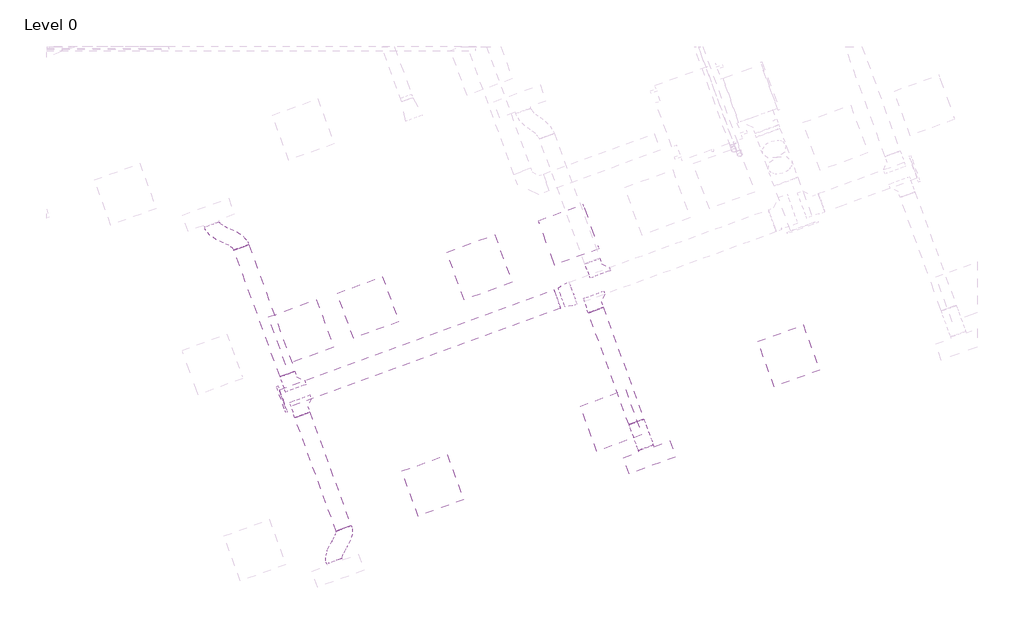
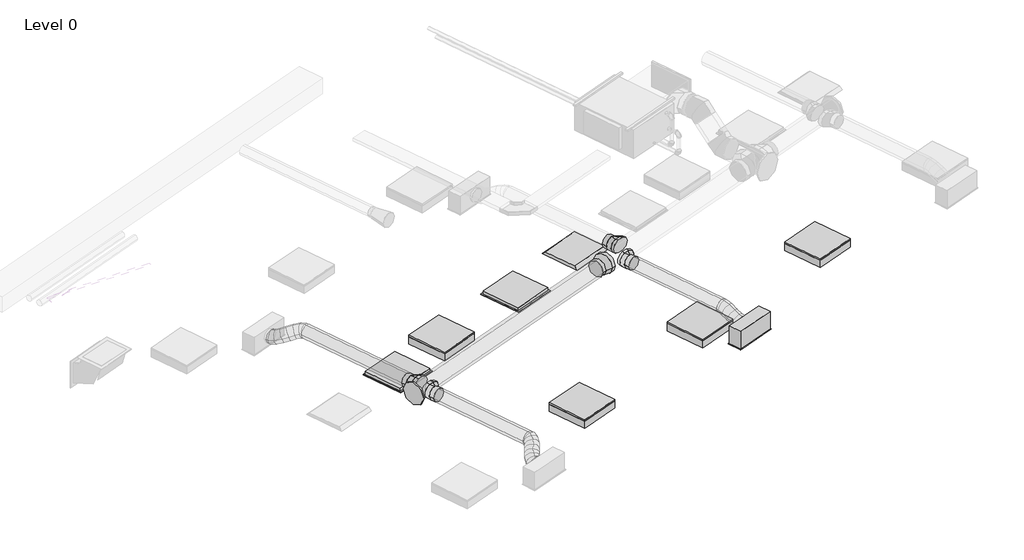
# One storey, part 20 of 34: 7 duct segments, 6 duct fittings, 5 light fixtures, 3 air terminals.
"""IFC4 building model written with IfcOpenShell, lengths in millimetres."""

from ifc_helpers import new_model, si_unit, point, frame, frame_2d, origin, place, context, project, spatial, circle_curve, ellipse_curve, trimmed, segment, composite_curve, outline, extrude, transform, mapped, element, save
from ifc_brep_helpers import plane_surface, cylinder_surface, advanced_brep
from components import return_grille_rectangular_hosted_standard_7b12617c, supply_diffuser_with_plenum_linear_slot_hosted_8e4f2f20, dw144_round_blank_end_standard_9aa061e7, dw144_round_shoe_branch_slip_joint1_standard_2_15a2edd8, dw144_round_shoe_branch_slip_joint1_standard_2_559552f4, dw144_round_shoe_branch_slip_joint1_standard_2_3a899113, dw144_round_taper_slip_joint_standard_7b2c0993, light_fixture_b730b5ca, troffer_light_2x2_parabolic_2_x2_2_lamp_120v_6a063ff3

model = new_model("IFC4")

# Units and contexts
model_context = context("Model", 3, world=origin())
ifc_project = project(units=[si_unit("LENGTHUNIT", "METRE", prefix="MILLI")], contexts=[model_context])

# Site, building, storey
site = spatial("IfcSite", under=ifc_project)
building = spatial("IfcBuilding", under=site)
storey = spatial("IfcBuildingStorey", under=building, Name="Level 0", Elevation=0.0)

# Air terminals
placement = place(None, origin())
return_grille_rectangular_hosted_standard_shape = return_grille_rectangular_hosted_standard_7b12617c(model_context)
element("IfcAirTerminal", 1, ObjectType="Return Grille - Rectangular - Hosted : Standard", at=placement, inside=storey, context=model_context, shape_type="MappedRepresentation", body=[
    mapped(return_grille_rectangular_hosted_standard_shape, transform((43552.4694696, 7593.8200472, 2800.0), x_axis=(0.939692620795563, 0.34202014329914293, 0.0), y_axis=(0.34202014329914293, -0.939692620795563, 0.0), z_axis=(0.0, 0.0, -1.0))),
])
element("IfcAirTerminal", 2, ObjectType="Return Grille - Rectangular - Hosted : Standard", at=placement, inside=storey, context=model_context, shape_type="MappedRepresentation", body=[
    mapped(return_grille_rectangular_hosted_standard_shape, transform((41292.9785622, 6771.4326123, 2800.0), x_axis=(0.939692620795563, 0.34202014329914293, 0.0), y_axis=(0.34202014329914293, -0.939692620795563, 0.0), z_axis=(0.0, 0.0, -1.0))),
])
supply_diffuser_with_plenum_linear_slot_hosted_shape = supply_diffuser_with_plenum_linear_slot_hosted_8e4f2f20(model_context)
element("IfcAirTerminal", 3, ObjectType="Supply Diffuser with Plenum - Linear Slot - Hosted : 24\" x 8\"-200 In Inlet  4-Slot", at=placement, inside=storey, context=model_context, shape_type="MappedRepresentation", body=[
    mapped(supply_diffuser_with_plenum_linear_slot_hosted_shape, transform((45706.1610442, 5185.1663567, 2800.0), x_axis=(-0.9396926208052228, -0.34202014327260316, 0.0), y_axis=(-0.34202014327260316, 0.9396926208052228, 0.0), z_axis=(0.0, 0.0, -1.0))),
])

# Duct fittings
dw144_round_blank_end_standard_shape = dw144_round_blank_end_standard_9aa061e7(model_context)
element("IfcDuctFitting", 4, ObjectType="DW144 Round Blank End : Standard", at=placement, inside=storey, context=model_context, shape_type="MappedRepresentation", body=[
    mapped(dw144_round_blank_end_standard_shape, transform((41058.5733499, 5925.2041513, 3072.2088531), x_axis=(-0.9396926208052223, -0.3420201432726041, 0.0), y_axis=(0.3420201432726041, -0.9396926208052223, 0.0), z_axis=(0.0, 0.0, 1.0))),
])
dw144_round_shoe_branch_slip_joint1_standard_2_shape = dw144_round_shoe_branch_slip_joint1_standard_2_15a2edd8(model_context)
element("IfcDuctFitting", 5, ObjectType="DW144 Round Shoe Branch - Slip Joint1 : Standard 2", at=placement, inside=storey, context=model_context, shape_type="MappedRepresentation", body=[
    mapped(dw144_round_shoe_branch_slip_joint1_standard_2_shape, transform((41257.502944, 5864.5863807, 3072.2088531), x_axis=(0.3420201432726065, -0.9396926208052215, 0.0), y_axis=(-0.9396926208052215, -0.3420201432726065, 0.0), z_axis=(0.0, 0.0, -1.0))),
])
dw144_round_shoe_branch_slip_joint1_standard_2_2_shape = dw144_round_shoe_branch_slip_joint1_standard_2_559552f4(model_context)
element("IfcDuctFitting", 6, ObjectType="DW144 Round Shoe Branch - Slip Joint1 : Standard 2", at=placement, inside=storey, context=model_context, shape_type="MappedRepresentation", body=[
    mapped(dw144_round_shoe_branch_slip_joint1_standard_2_2_shape, transform((41171.9979082, 6099.5095359, 3072.2088531), x_axis=(-0.34202014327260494, 0.9396926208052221, 0.0), y_axis=(0.9396926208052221, 0.34202014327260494, 0.0), z_axis=(0.0, 0.0, -1.0))),
])
dw144_round_shoe_branch_slip_joint1_standard_2_3_shape = dw144_round_shoe_branch_slip_joint1_standard_2_3a899113(model_context)
element("IfcDuctFitting", 7, ObjectType="DW144 Round Shoe Branch - Slip Joint1 : Standard 2", at=placement, inside=storey, context=model_context, shape_type="MappedRepresentation", body=[
    mapped(dw144_round_shoe_branch_slip_joint1_standard_2_3_shape, transform((45034.2380322, 7531.8544227, 3072.2088531), x_axis=(-0.342020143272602, 0.9396926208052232, 0.0), y_axis=(-0.9396926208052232, -0.342020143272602, 0.0), z_axis=(0.0, 0.0, 1.0))),
])
element("IfcDuctFitting", 8, ObjectType="DW144 Round Shoe Branch - Slip Joint1 : Standard 2", at=placement, inside=storey, context=model_context, shape_type="MappedRepresentation", body=[
    mapped(dw144_round_shoe_branch_slip_joint1_standard_2_3_shape, transform((44975.9560198, 7191.3881733, 3072.2088531), x_axis=(0.34202014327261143, -0.9396926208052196, 0.0), y_axis=(-0.9396926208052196, -0.34202014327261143, 0.0), z_axis=(0.0, 0.0, -1.0))),
])
dw144_round_taper_slip_joint_standard_shape = dw144_round_taper_slip_joint_standard_7b2c0993(model_context)
element("IfcDuctFitting", 9, ObjectType="DW144 Round Taper - Slip Joint : Standard", at=placement, inside=storey, context=model_context, shape_type="MappedRepresentation", body=[
    mapped(dw144_round_taper_slip_joint_standard_shape, transform((44738.6405983, 7264.6390896, 3072.2088531), x_axis=(-0.9396926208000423, -0.3420201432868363, 0.0), y_axis=(0.3420201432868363, -0.9396926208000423, 0.0), z_axis=(0.0, 0.0, 1.0))),
])

# Duct segments
element("IfcDuctSegment", 10, ObjectType="DW144 Segmented Bend / Shoe Branch", at=placement, inside=storey, context=model_context, shape_type="SweptSolid", body=[
    extrude(outline(composite_curve([segment(trimmed(circle_curve(frame_2d((0.0, -125.0)), 125.0), [point((-125.0, -125.0))], [point((0.0, 0.0))], False, "CARTESIAN"), True, "CONTINUOUS"), segment(trimmed(circle_curve(frame_2d((0.0, -125.0)), 125.0), [point((0.0, 0.0))], [point((125.0, -125.0))], False, "CARTESIAN"), True, "CONTINUOUS"), segment(trimmed(circle_curve(frame_2d((0.0, -125.0)), 125.0), [point((125.0, -125.0))], [point((0.0, -250.0))], False, "CARTESIAN"), True, "CONTINUOUS"), segment(trimmed(circle_curve(frame_2d((0.0, -125.0)), 125.0), [point((0.0, -250.0))], [point((-125.0, -125.0))], False, "CARTESIAN"), True, "CONTINUOUS")], self_intersect=False)), frame((41058.5733499, 5925.2041513, 2947.2088531), z_axis=(0.9396926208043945, 0.34202014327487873, 0.0), x_axis=(0.34202014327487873, -0.9396926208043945, 0.0)), (0.0, 0.0, 1.0), 3702.9444966),
])
element("IfcDuctSegment", 11, ObjectType="DW144 Segmented Bend / Shoe Branch", at=placement, inside=storey, context=model_context, shape_type="SweptSolid", body=[
    extrude(outline(composite_curve([segment(trimmed(circle_curve(frame_2d((0.0, 100.0)), 100.0), [point((100.0, 100.0))], [point((0.0, 0.0))], False, "CARTESIAN"), True, "CONTINUOUS"), segment(trimmed(circle_curve(frame_2d((0.0, 100.0)), 100.0), [point((0.0, 0.0))], [point((-99.9999999, 100.0))], False, "CARTESIAN"), True, "CONTINUOUS"), segment(trimmed(circle_curve(frame_2d((0.0, 100.0)), 100.0), [point((-99.9999999, 100.0))], [point((0.0, 200.0))], False, "CARTESIAN"), True, "CONTINUOUS"), segment(trimmed(circle_curve(frame_2d((0.0, 100.0)), 100.0), [point((0.0, 200.0))], [point((100.0, 100.0))], False, "CARTESIAN"), True, "CONTINUOUS")], self_intersect=False)), frame((45542.5721876, 5634.6230463, 3172.2088531), z_axis=(-0.3420201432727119, 0.9396926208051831, 0.0), x_axis=(0.9396926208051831, 0.3420201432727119, 0.0)), (0.0, 0.0, 1.0), 1506.6748451),
])
element("IfcDuctSegment", 12, ObjectType="DW144 Segmented Bend / Shoe Branch", at=placement, inside=storey, context=model_context, shape_type="SweptSolid", body=[
    extrude(outline(composite_curve([segment(trimmed(circle_curve(frame_2d((0.0, 100.0)), 100.0), [point((100.0, 100.0))], [point((0.0, 0.0))], False, "CARTESIAN"), True, "CONTINUOUS"), segment(trimmed(circle_curve(frame_2d((0.0, 100.0)), 100.0), [point((0.0, 0.0))], [point((-100.0, 100.0))], False, "CARTESIAN"), True, "CONTINUOUS"), segment(trimmed(circle_curve(frame_2d((0.0, 100.0)), 100.0), [point((-100.0, 100.0))], [point((0.0, 200.0))], False, "CARTESIAN"), True, "CONTINUOUS"), segment(trimmed(circle_curve(frame_2d((0.0, 100.0)), 100.0), [point((0.0, 200.0))], [point((100.0, 100.0))], False, "CARTESIAN"), True, "CONTINUOUS")], self_intersect=False)), frame((41832.6696155, 4284.328938, 3172.2088531), z_axis=(-0.3420201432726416, 0.9396926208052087, 0.0), x_axis=(0.9396926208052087, 0.3420201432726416, 0.0)), (0.0, 0.0, 1.0), 1531.6748453),
])
element("IfcDuctSegment", 13, ObjectType="DW144 Segmented Bend / Shoe Branch", at=placement, inside=storey, context=model_context, shape_type="SweptSolid", body=[
    extrude(outline(composite_curve([segment(trimmed(circle_curve(frame_2d((0.0, -100.0)), 100.0), [point((-100.0, -100.0))], [point((0.0, 0.0))], False, "CARTESIAN"), True, "CONTINUOUS"), segment(trimmed(circle_curve(frame_2d((0.0, -100.0)), 100.0), [point((0.0, 0.0))], [point((100.0, -100.0))], False, "CARTESIAN"), True, "CONTINUOUS"), segment(trimmed(circle_curve(frame_2d((0.0, -100.0)), 100.0), [point((100.0, -100.0))], [point((0.0, -200.0))], False, "CARTESIAN"), True, "CONTINUOUS"), segment(trimmed(circle_curve(frame_2d((0.0, -100.0)), 100.0), [point((0.0, -200.0))], [point((-100.0, -100.0))], False, "CARTESIAN"), True, "CONTINUOUS")], self_intersect=False)), frame((41120.6948867, 6240.463429, 2972.2088531), z_axis=(-0.34202014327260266, 0.9396926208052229, 0.0), x_axis=(0.9396926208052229, 0.34202014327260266, 0.0)), (0.0, 0.0, 1.0), 1708.3251547),
])
element("IfcDuctSegment", 14, ObjectType="Flex - Round", at=placement, inside=storey, context=model_context, shape_type="AdvancedBrep", body=[
    advanced_brep(
    [(45636.5414497, 5668.8250606, 3072.2088531), (45542.5721876, 5634.6230463, 2972.2088531), (45448.6029256, 5600.4210319, 3072.2088531), (45542.5721876, 5634.6230463, 3172.2088531), (45643.456652, 5649.8256986, 3072.2088531), (45545.0000927, 5627.952432, 2972.2088531), (45455.5181278, 5581.4216699, 3072.2088531), (45553.9746871, 5603.2949365, 3172.2088531), (45756.0439098, 5340.4947498, 2954.4), (45662.0746478, 5306.2927355, 3054.4), (45568.1053857, 5272.0907211, 2954.4), (45662.0746478, 5306.2927355, 2854.4), (45667.0367565, 5585.039894, 3053.8012198), (45561.2417272, 5583.3289079, 2959.5299419), (45479.0982323, 5516.6358653, 3053.8012198), (45584.8932616, 5518.3468513, 3148.0724978), (45696.2926798, 5504.6599052, 3013.3044266), (45587.6883456, 5510.6674209, 2922.9218599), (45508.3541556, 5436.2558765, 3013.3044266), (45616.9584898, 5430.2483608, 3103.6869932), (45725.5486031, 5424.2799164, 2972.8076333), (45619.7535738, 5422.5689304, 2878.5363553), (45537.610079, 5355.8758878, 2972.8076333), (45643.4051082, 5357.5868738, 3067.0789113), (45749.1287076, 5359.4941118, 2954.4), (45650.6721483, 5337.6208453, 2854.4), (45561.1901834, 5291.0900832, 2954.4), (45659.6467427, 5312.9633498, 3054.4)],
    [
        (0, 1, circle_curve(frame((45542.5721876, 5634.6230463, 3072.2088531), z_axis=(-0.3420201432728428, 0.9396926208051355, 0.0), x_axis=(0.9396926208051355, 0.3420201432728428, 0.0)), 100.0)),
        (1, 2, circle_curve(frame((45542.5721876, 5634.6230463, 3072.2088531), z_axis=(-0.3420201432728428, 0.9396926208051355, 0.0), x_axis=(0.9396926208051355, 0.3420201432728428, 0.0)), 100.0)),
        (2, 3, circle_curve(frame((45542.5721876, 5634.6230463, 3072.2088531), z_axis=(-0.3420201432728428, 0.9396926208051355, 0.0), x_axis=(0.9396926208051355, 0.3420201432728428, 0.0)), 100.0)),
        (3, 0, circle_curve(frame((45542.5721876, 5634.6230463, 3072.2088531), z_axis=(-0.3420201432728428, 0.9396926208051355, 0.0), x_axis=(0.9396926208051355, 0.3420201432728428, 0.0)), 100.0)),
        (0, 4),
        (4, 5, ellipse_curve(frame((45549.4873899, 5615.6236842, 3072.2088531), z_axis=(-0.33911394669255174, 0.9317079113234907, 0.1300849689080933), x_axis=(-0.04449167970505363, 0.12223988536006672, -0.9915028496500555)), 100.8569971, 100.0)),
        (5, 1),
        (5, 6, ellipse_curve(frame((45549.4873899, 5615.6236842, 3072.2088531), z_axis=(-0.33911394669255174, 0.9317079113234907, 0.1300849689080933), x_axis=(-0.04449167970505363, 0.12223988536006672, -0.9915028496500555)), 100.8569971, 100.0)),
        (6, 2),
        (6, 7, ellipse_curve(frame((45549.4873899, 5615.6236842, 3072.2088531), z_axis=(-0.33911394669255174, 0.9317079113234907, 0.1300849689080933), x_axis=(-0.04449167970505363, 0.12223988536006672, -0.9915028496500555)), 100.8569971, 100.0)),
        (7, 3),
        (7, 4, ellipse_curve(frame((45549.4873899, 5615.6236842, 3072.2088531), z_axis=(-0.33911394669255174, 0.9317079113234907, 0.1300849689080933), x_axis=(-0.04449167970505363, 0.12223988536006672, -0.9915028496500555)), 100.8569971, 100.0)),
        (8, 9, circle_curve(frame((45662.0746478, 5306.2927355, 2954.4), z_axis=(0.3420201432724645, -0.9396926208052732, 0.0), x_axis=(0.9396926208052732, 0.3420201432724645, 0.0)), 100.0)),
        (9, 10, circle_curve(frame((45662.0746478, 5306.2927355, 2954.4), z_axis=(0.3420201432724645, -0.9396926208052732, 0.0), x_axis=(0.9396926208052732, 0.3420201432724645, 0.0)), 100.0)),
        (10, 11, circle_curve(frame((45662.0746478, 5306.2927355, 2954.4), z_axis=(0.3420201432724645, -0.9396926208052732, 0.0), x_axis=(0.9396926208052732, 0.3420201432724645, 0.0)), 100.0)),
        (11, 8, circle_curve(frame((45662.0746478, 5306.2927355, 2954.4), z_axis=(0.3420201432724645, -0.9396926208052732, 0.0), x_axis=(0.9396926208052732, 0.3420201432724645, 0.0)), 100.0)),
        (4, 12),
        (12, 13, ellipse_curve(frame((45573.0674944, 5550.8378796, 3053.8012198), z_axis=(-0.32110349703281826, 0.8822246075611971, 0.34434326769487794), x_axis=(-0.1177723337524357, 0.32357682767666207, -0.9388438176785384)), 100.4120986, 100.0)),
        (13, 5),
        (13, 14, ellipse_curve(frame((45573.0674944, 5550.8378796, 3053.8012198), z_axis=(-0.32110349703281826, 0.8822246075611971, 0.34434326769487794), x_axis=(-0.1177723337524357, 0.32357682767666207, -0.9388438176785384)), 100.4120986, 100.0)),
        (14, 6),
        (14, 15, ellipse_curve(frame((45573.0674944, 5550.8378796, 3053.8012198), z_axis=(-0.32110349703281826, 0.8822246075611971, 0.34434326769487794), x_axis=(-0.1177723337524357, 0.32357682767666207, -0.9388438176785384)), 100.4120986, 100.0)),
        (15, 7),
        (15, 12, ellipse_curve(frame((45573.0674944, 5550.8378796, 3053.8012198), z_axis=(-0.32110349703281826, 0.8822246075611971, 0.34434326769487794), x_axis=(-0.1177723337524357, 0.32357682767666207, -0.9388438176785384)), 100.4120986, 100.0)),
        (12, 16),
        (16, 17, circle_curve(frame((45602.3234177, 5470.4578909, 3013.3044266), z_axis=(-0.30912658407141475, 0.8493183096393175, 0.42790088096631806), x_axis=(0.9396926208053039, 0.3420201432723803, 0.0)), 100.0)),
        (17, 13),
        (17, 18, circle_curve(frame((45602.3234177, 5470.4578909, 3013.3044266), z_axis=(-0.30912658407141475, 0.8493183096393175, 0.42790088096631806), x_axis=(0.9396926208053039, 0.3420201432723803, 0.0)), 100.0)),
        (18, 14),
        (18, 19, circle_curve(frame((45602.3234177, 5470.4578909, 3013.3044266), z_axis=(-0.30912658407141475, 0.8493183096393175, 0.42790088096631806), x_axis=(0.9396926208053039, 0.3420201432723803, 0.0)), 100.0)),
        (19, 15),
        (19, 16, circle_curve(frame((45602.3234177, 5470.4578909, 3013.3044266), z_axis=(-0.30912658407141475, 0.8493183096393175, 0.42790088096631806), x_axis=(0.9396926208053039, 0.3420201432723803, 0.0)), 100.0)),
        (16, 20),
        (20, 21, ellipse_curve(frame((45631.579341, 5390.0779021, 2972.8076333), z_axis=(-0.3211034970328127, 0.8822246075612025, 0.34434326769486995), x_axis=(0.11777233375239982, -0.3235768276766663, 0.9388438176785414)), 100.4120986, 100.0)),
        (21, 17),
        (21, 22, ellipse_curve(frame((45631.579341, 5390.0779021, 2972.8076333), z_axis=(-0.3211034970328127, 0.8822246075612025, 0.34434326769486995), x_axis=(0.11777233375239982, -0.3235768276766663, 0.9388438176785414)), 100.4120986, 100.0)),
        (22, 18),
        (22, 23, ellipse_curve(frame((45631.579341, 5390.0779021, 2972.8076333), z_axis=(-0.3211034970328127, 0.8822246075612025, 0.34434326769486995), x_axis=(0.11777233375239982, -0.3235768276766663, 0.9388438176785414)), 100.4120986, 100.0)),
        (23, 19),
        (23, 20, ellipse_curve(frame((45631.579341, 5390.0779021, 2972.8076333), z_axis=(-0.3211034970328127, 0.8822246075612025, 0.34434326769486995), x_axis=(0.11777233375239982, -0.3235768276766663, 0.9388438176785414)), 100.4120986, 100.0)),
        (20, 24),
        (24, 25, ellipse_curve(frame((45655.1594455, 5325.2920975, 2954.4), z_axis=(-0.33911394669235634, 0.9317079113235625, 0.13008496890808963), x_axis=(0.04449167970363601, -0.12223988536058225, 0.9915028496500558)), 100.8569971, 100.0)),
        (25, 21),
        (25, 26, ellipse_curve(frame((45655.1594455, 5325.2920975, 2954.4), z_axis=(-0.33911394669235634, 0.9317079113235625, 0.13008496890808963), x_axis=(0.04449167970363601, -0.12223988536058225, 0.9915028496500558)), 100.8569971, 100.0)),
        (26, 22),
        (26, 27, ellipse_curve(frame((45655.1594455, 5325.2920975, 2954.4), z_axis=(-0.33911394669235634, 0.9317079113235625, 0.13008496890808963), x_axis=(0.04449167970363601, -0.12223988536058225, 0.9915028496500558)), 100.8569971, 100.0)),
        (27, 23),
        (27, 24, ellipse_curve(frame((45655.1594455, 5325.2920975, 2954.4), z_axis=(-0.33911394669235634, 0.9317079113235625, 0.13008496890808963), x_axis=(0.04449167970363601, -0.12223988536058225, 0.9915028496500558)), 100.8569971, 100.0)),
        (24, 8),
        (11, 25),
        (10, 26),
        (9, 27),
    ],
    [
        plane_surface(frame((45542.5721876, 5634.6230463, 2972.2088531), z_axis=(-0.34202014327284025, 0.9396926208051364, 0.0), x_axis=(0.9396926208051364, 0.34202014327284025, 0.0))),
        cylinder_surface(frame((45542.5721876, 5634.6230463, 3072.2088531), z_axis=(-0.3420201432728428, 0.9396926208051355, 0.0), x_axis=(0.9396926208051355, 0.3420201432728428, 0.0)), 100.0),
        plane_surface(frame((45662.0746478, 5306.2927355, 2854.4), z_axis=(0.34202014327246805, -0.9396926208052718, 0.0), x_axis=(0.9396926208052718, 0.34202014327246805, 0.0))),
        cylinder_surface(frame((45549.4873899, 5615.6236842, 3072.2088531), z_axis=(-0.33044474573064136, 0.9078894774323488, 0.25795923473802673), x_axis=(0.9396926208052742, 0.3420201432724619, 0.0)), 100.0),
        cylinder_surface(frame((45573.0674944, 5550.8378796, 3053.8012198), z_axis=(-0.30912658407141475, 0.8493183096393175, 0.42790088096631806), x_axis=(0.9396926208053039, 0.3420201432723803, 0.0)), 100.0),
        cylinder_surface(frame((45602.3234177, 5470.4578909, 3013.3044266), z_axis=(-0.3091265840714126, 0.8493183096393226, 0.4279008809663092), x_axis=(0.9396926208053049, 0.342020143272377, 0.0)), 100.0),
        cylinder_surface(frame((45631.579341, 5390.0779021, 2972.8076333), z_axis=(-0.33044474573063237, 0.9078894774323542, 0.25795923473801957), x_axis=(0.9396926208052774, 0.34202014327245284, 0.0)), 100.0),
        cylinder_surface(frame((45655.1594455, 5325.2920975, 2954.4), z_axis=(-0.3420201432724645, 0.9396926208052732, 0.0), x_axis=(0.9396926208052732, 0.3420201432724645, 0.0)), 100.0),
    ],
    [
        (0, [[1, 2, 3, 4]]),
        (1, [[-1, 5, 6, 7]]),
        (1, [[-2, -7, 8, 9]]),
        (1, [[-3, -9, 10, 11]]),
        (1, [[-4, -11, 12, -5]]),
        (2, [[13, 14, 15, 16]]),
        (3, [[-6, 17, 18, 19]]),
        (3, [[-8, -19, 20, 21]]),
        (3, [[-10, -21, 22, 23]]),
        (3, [[-12, -23, 24, -17]]),
        (4, [[-18, 25, 26, 27]]),
        (4, [[-20, -27, 28, 29]]),
        (4, [[-22, -29, 30, 31]]),
        (4, [[-24, -31, 32, -25]]),
        (5, [[-26, 33, 34, 35]]),
        (5, [[-28, -35, 36, 37]]),
        (5, [[-30, -37, 38, 39]]),
        (5, [[-32, -39, 40, -33]]),
        (6, [[-34, 41, 42, 43]]),
        (6, [[-36, -43, 44, 45]]),
        (6, [[-38, -45, 46, 47]]),
        (6, [[-40, -47, 48, -41]]),
        (7, [[-42, 49, -16, 50]]),
        (7, [[-44, -50, -15, 51]]),
        (7, [[-46, -51, -14, 52]]),
        (7, [[-48, -52, -13, -49]]),
    ],
),
])
element("IfcDuctSegment", 15, ObjectType="Flex - Round", at=placement, inside=storey, context=model_context, shape_type="AdvancedBrep", body=[
    advanced_brep(
    [(41926.6388776, 4318.5309523, 3072.2088531), (41832.6696155, 4284.328938, 2972.2088531), (41738.7003534, 4250.1269236, 3072.2088531), (41832.6696155, 4284.328938, 3172.2088531), (41941.143002, 4278.6811981, 3072.2088531), (41837.6192575, 4270.7299085, 2972.2088531), (41740.1829281, 4246.0535833, 3072.2088531), (41843.7066726, 4254.0048729, 3172.2088531), (41809.3349025, 3904.0101478, 2954.4), (41715.3656405, 3869.8081335, 3054.4), (41621.3963784, 3835.6061192, 2954.4), (41715.3656405, 3869.8081335, 2854.4), (41939.1022554, 4210.6437498, 3060.4338405), (41836.9135433, 4247.201759, 2968.1369153), (41739.9616616, 4238.6766735, 3070.9321561), (41842.1503737, 4202.1186642, 3163.2290813), (41916.7633672, 4131.704107, 3037.9988054), (41822.7649647, 4197.2044749, 2953.927441), (41728.7851284, 4199.1818007, 3059.7075189), (41822.7835309, 4133.6814328, 3143.7788832), (41880.4675155, 4062.5309182, 3010.9941094), (41794.3438119, 4143.0390077, 2932.7816474), (41703.2214942, 4150.4622362, 3040.6877649), (41789.3451977, 4069.9541467, 3118.9002269), (41844.8137618, 4003.6748353, 2985.9210882), (41758.6900582, 4084.1829248, 2907.7086262), (41667.5677405, 4091.6061533, 3015.6147437), (41753.691444, 4011.0980638, 3093.8272057), (41819.2501276, 3954.9552708, 2966.9013343), (41725.2517251, 4020.4556387, 2882.8299699), (41631.2718888, 4022.4329645, 2988.6100477), (41725.2702913, 3956.9325966, 3072.6814121), (41808.0735943, 3915.460398, 2955.676697), (41705.8848823, 3952.0184073, 2863.3797719), (41608.9330006, 3943.4933217, 2966.1750127), (41711.1217127, 3906.9353124, 3058.4719378), (41807.8523279, 3908.0834882, 2954.4), (41704.3285834, 3900.1321986, 2854.4), (41606.892254, 3875.4558734, 2954.4), (41710.4159985, 3883.407163, 3054.4)],
    [
        (0, 1, circle_curve(frame((41832.6696155, 4284.328938, 3072.2088531), z_axis=(-0.34202014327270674, 0.939692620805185, 0.0), x_axis=(0.939692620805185, 0.34202014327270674, 0.0)), 100.0)),
        (1, 2, circle_curve(frame((41832.6696155, 4284.328938, 3072.2088531), z_axis=(-0.34202014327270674, 0.939692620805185, 0.0), x_axis=(0.939692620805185, 0.34202014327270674, 0.0)), 100.0)),
        (2, 3, circle_curve(frame((41832.6696155, 4284.328938, 3072.2088531), z_axis=(-0.34202014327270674, 0.939692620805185, 0.0), x_axis=(0.939692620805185, 0.34202014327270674, 0.0)), 100.0)),
        (3, 0, circle_curve(frame((41832.6696155, 4284.328938, 3072.2088531), z_axis=(-0.34202014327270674, 0.939692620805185, 0.0), x_axis=(0.939692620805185, 0.34202014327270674, 0.0)), 100.0)),
        (0, 4),
        (4, 5, ellipse_curve(frame((41840.662965, 4262.3673907, 3072.2088531), z_axis=(-0.15965125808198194, 0.9833243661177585, 0.08708999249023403), x_axis=(-0.9034059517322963, -0.10996973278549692, -0.4144446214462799)), 102.1840203, 100.0)),
        (5, 1),
        (5, 6, ellipse_curve(frame((41840.662965, 4262.3673907, 3072.2088531), z_axis=(-0.15965125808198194, 0.9833243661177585, 0.08708999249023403), x_axis=(-0.9034059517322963, -0.10996973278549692, -0.4144446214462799)), 102.1840203, 100.0)),
        (6, 2),
        (6, 7, ellipse_curve(frame((41840.662965, 4262.3673907, 3072.2088531), z_axis=(-0.15965125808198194, 0.9833243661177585, 0.08708999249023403), x_axis=(-0.9034059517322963, -0.10996973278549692, -0.4144446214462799)), 102.1840203, 100.0)),
        (7, 3),
        (7, 4, ellipse_curve(frame((41840.662965, 4262.3673907, 3072.2088531), z_axis=(-0.15965125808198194, 0.9833243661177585, 0.08708999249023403), x_axis=(-0.9034059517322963, -0.10996973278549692, -0.4144446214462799)), 102.1840203, 100.0)),
        (8, 9, circle_curve(frame((41715.3656405, 3869.8081335, 2954.4), z_axis=(0.34202014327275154, -0.9396926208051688, 0.0), x_axis=(0.9396926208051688, 0.34202014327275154, 0.0)), 100.0)),
        (9, 10, circle_curve(frame((41715.3656405, 3869.8081335, 2954.4), z_axis=(0.34202014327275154, -0.9396926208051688, 0.0), x_axis=(0.9396926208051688, 0.34202014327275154, 0.0)), 100.0)),
        (10, 11, circle_curve(frame((41715.3656405, 3869.8081335, 2954.4), z_axis=(0.34202014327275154, -0.9396926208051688, 0.0), x_axis=(0.9396926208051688, 0.34202014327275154, 0.0)), 100.0)),
        (11, 8, circle_curve(frame((41715.3656405, 3869.8081335, 2954.4), z_axis=(0.34202014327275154, -0.9396926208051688, 0.0), x_axis=(0.9396926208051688, 0.34202014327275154, 0.0)), 100.0)),
        (4, 12),
        (12, 13, ellipse_curve(frame((41839.5319585, 4224.6602116, 3065.6829983), z_axis=(0.1473216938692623, 0.9645524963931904, 0.2189401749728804), x_axis=(-0.9054982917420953, 0.2205870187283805, -0.3625109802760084)), 100.8388548, 100.0)),
        (13, 5),
        (13, 14, ellipse_curve(frame((41839.5319585, 4224.6602116, 3065.6829983), z_axis=(0.1473216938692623, 0.9645524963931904, 0.2189401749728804), x_axis=(-0.9054982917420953, 0.2205870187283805, -0.3625109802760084)), 100.8388548, 100.0)),
        (14, 6),
        (14, 15, ellipse_curve(frame((41839.5319585, 4224.6602116, 3065.6829983), z_axis=(0.1473216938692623, 0.9645524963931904, 0.2189401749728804), x_axis=(-0.9054982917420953, 0.2205870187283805, -0.3625109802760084)), 100.8388548, 100.0)),
        (15, 7),
        (15, 12, ellipse_curve(frame((41839.5319585, 4224.6602116, 3065.6829983), z_axis=(0.1473216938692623, 0.9645524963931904, 0.2189401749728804), x_axis=(-0.9054982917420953, 0.2205870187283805, -0.3625109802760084)), 100.8388548, 100.0)),
        (12, 16),
        (16, 17, ellipse_curve(frame((41822.7742478, 4165.4429538, 3048.8531621), z_axis=(0.35281242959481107, 0.8873517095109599, 0.2968675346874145), x_axis=(-0.846849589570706, 0.43775232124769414, -0.3020243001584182)), 100.5473433, 100.0)),
        (17, 13),
        (17, 18, ellipse_curve(frame((41822.7742478, 4165.4429538, 3048.8531621), z_axis=(0.35281242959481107, 0.8873517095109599, 0.2968675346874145), x_axis=(-0.846849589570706, 0.43775232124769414, -0.3020243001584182)), 100.5473433, 100.0)),
        (18, 14),
        (18, 19, ellipse_curve(frame((41822.7742478, 4165.4429538, 3048.8531621), z_axis=(0.35281242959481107, 0.8873517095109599, 0.2968675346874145), x_axis=(-0.846849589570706, 0.43775232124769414, -0.3020243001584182)), 100.5473433, 100.0)),
        (19, 15),
        (19, 16, ellipse_curve(frame((41822.7742478, 4165.4429538, 3048.8531621), z_axis=(0.35281242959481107, 0.8873517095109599, 0.2968675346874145), x_axis=(-0.846849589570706, 0.43775232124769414, -0.3020243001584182)), 100.5473433, 100.0)),
        (16, 20),
        (20, 21, ellipse_curve(frame((41791.8445048, 4106.4965772, 3025.8409372), z_axis=(0.46318514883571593, 0.820636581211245, 0.33468659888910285), x_axis=(-0.7918903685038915, 0.5527890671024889, -0.25948774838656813)), 100.045353, 100.0)),
        (21, 17),
        (21, 22, ellipse_curve(frame((41791.8445048, 4106.4965772, 3025.8409372), z_axis=(0.46318514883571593, 0.820636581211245, 0.33468659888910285), x_axis=(-0.7918903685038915, 0.5527890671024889, -0.25948774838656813)), 100.045353, 100.0)),
        (22, 18),
        (22, 23, ellipse_curve(frame((41791.8445048, 4106.4965772, 3025.8409372), z_axis=(0.46318514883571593, 0.820636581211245, 0.33468659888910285), x_axis=(-0.7918903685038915, 0.5527890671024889, -0.25948774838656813)), 100.045353, 100.0)),
        (23, 19),
        (23, 20, ellipse_curve(frame((41791.8445048, 4106.4965772, 3025.8409372), z_axis=(0.46318514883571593, 0.820636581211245, 0.33468659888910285), x_axis=(-0.7918903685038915, 0.5527890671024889, -0.25948774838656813)), 100.045353, 100.0)),
        (20, 24),
        (24, 25, ellipse_curve(frame((41756.1907511, 4047.6404943, 3000.767916), z_axis=(0.4631851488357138, 0.8206365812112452, 0.3346865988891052), x_axis=(0.7918903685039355, -0.5527890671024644, 0.2594877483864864)), 100.045353, 100.0)),
        (25, 21),
        (25, 26, ellipse_curve(frame((41756.1907511, 4047.6404943, 3000.767916), z_axis=(0.4631851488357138, 0.8206365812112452, 0.3346865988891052), x_axis=(0.7918903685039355, -0.5527890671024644, 0.2594877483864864)), 100.045353, 100.0)),
        (26, 22),
        (26, 27, ellipse_curve(frame((41756.1907511, 4047.6404943, 3000.767916), z_axis=(0.4631851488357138, 0.8206365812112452, 0.3346865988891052), x_axis=(0.7918903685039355, -0.5527890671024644, 0.2594877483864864)), 100.045353, 100.0)),
        (27, 23),
        (27, 24, ellipse_curve(frame((41756.1907511, 4047.6404943, 3000.767916), z_axis=(0.4631851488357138, 0.8206365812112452, 0.3346865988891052), x_axis=(0.7918903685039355, -0.5527890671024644, 0.2594877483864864)), 100.045353, 100.0)),
        (24, 28),
        (28, 29, ellipse_curve(frame((41725.2610082, 3988.6941176, 2977.755691), z_axis=(0.35281242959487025, 0.887351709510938, 0.29686753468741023), x_axis=(0.8468495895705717, -0.4377523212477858, 0.3020243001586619)), 100.5473433, 100.0)),
        (29, 25),
        (29, 30, ellipse_curve(frame((41725.2610082, 3988.6941176, 2977.755691), z_axis=(0.35281242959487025, 0.887351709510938, 0.29686753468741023), x_axis=(0.8468495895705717, -0.4377523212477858, 0.3020243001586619)), 100.5473433, 100.0)),
        (30, 26),
        (30, 31, ellipse_curve(frame((41725.2610082, 3988.6941176, 2977.755691), z_axis=(0.35281242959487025, 0.887351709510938, 0.29686753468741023), x_axis=(0.8468495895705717, -0.4377523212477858, 0.3020243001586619)), 100.5473433, 100.0)),
        (31, 27),
        (31, 28, ellipse_curve(frame((41725.2610082, 3988.6941176, 2977.755691), z_axis=(0.35281242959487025, 0.887351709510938, 0.29686753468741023), x_axis=(0.8468495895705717, -0.4377523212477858, 0.3020243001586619)), 100.5473433, 100.0)),
        (28, 32),
        (32, 33, ellipse_curve(frame((41708.5032975, 3929.4768599, 2960.9258548), z_axis=(0.14732169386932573, 0.964552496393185, 0.21894017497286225), x_axis=(0.9054982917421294, -0.22058701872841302, 0.36251098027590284)), 100.8388548, 100.0)),
        (33, 29),
        (33, 34, ellipse_curve(frame((41708.5032975, 3929.4768599, 2960.9258548), z_axis=(0.14732169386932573, 0.964552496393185, 0.21894017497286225), x_axis=(0.9054982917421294, -0.22058701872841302, 0.36251098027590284)), 100.8388548, 100.0)),
        (34, 30),
        (34, 35, ellipse_curve(frame((41708.5032975, 3929.4768599, 2960.9258548), z_axis=(0.14732169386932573, 0.964552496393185, 0.21894017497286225), x_axis=(0.9054982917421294, -0.22058701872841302, 0.36251098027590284)), 100.8388548, 100.0)),
        (35, 31),
        (35, 32, ellipse_curve(frame((41708.5032975, 3929.4768599, 2960.9258548), z_axis=(0.14732169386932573, 0.964552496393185, 0.21894017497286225), x_axis=(0.9054982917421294, -0.22058701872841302, 0.36251098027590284)), 100.8388548, 100.0)),
        (32, 36),
        (36, 37, ellipse_curve(frame((41707.372291, 3891.7696808, 2954.4), z_axis=(-0.15965125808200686, 0.9833243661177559, 0.08708999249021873), x_axis=(0.9034059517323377, 0.10996973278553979, 0.4144446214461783)), 102.1840203, 100.0)),
        (37, 33),
        (37, 38, ellipse_curve(frame((41707.372291, 3891.7696808, 2954.4), z_axis=(-0.15965125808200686, 0.9833243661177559, 0.08708999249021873), x_axis=(0.9034059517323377, 0.10996973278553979, 0.4144446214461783)), 102.1840203, 100.0)),
        (38, 34),
        (38, 39, ellipse_curve(frame((41707.372291, 3891.7696808, 2954.4), z_axis=(-0.15965125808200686, 0.9833243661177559, 0.08708999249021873), x_axis=(0.9034059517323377, 0.10996973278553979, 0.4144446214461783)), 102.1840203, 100.0)),
        (39, 35),
        (39, 36, ellipse_curve(frame((41707.372291, 3891.7696808, 2954.4), z_axis=(-0.15965125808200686, 0.9833243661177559, 0.08708999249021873), x_axis=(0.9034059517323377, 0.10996973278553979, 0.4144446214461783)), 102.1840203, 100.0)),
        (36, 8),
        (11, 37),
        (10, 38),
        (9, 39),
    ],
    [
        plane_surface(frame((41832.6696155, 4284.328938, 2972.2088531), z_axis=(-0.3420201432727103, 0.9396926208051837, 0.0), x_axis=(0.9396926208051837, 0.3420201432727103, 0.0))),
        cylinder_surface(frame((41832.6696155, 4284.328938, 3072.2088531), z_axis=(-0.34202014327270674, 0.939692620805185, 0.0), x_axis=(0.939692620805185, 0.34202014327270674, 0.0)), 100.0),
        plane_surface(frame((41715.3656405, 3869.8081335, 2854.4), z_axis=(0.3420201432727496, -0.9396926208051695, 0.0), x_axis=(0.9396926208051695, 0.3420201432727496, 0.0))),
        cylinder_surface(frame((41840.662965, 4262.3673907, 3072.2088531), z_axis=(0.02954220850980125, 0.9849221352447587, 0.17045716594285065), x_axis=(0.99917664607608, -0.024353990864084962, -0.03244862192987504)), 100.0),
        cylinder_surface(frame((41839.5319585, 4224.6602116, 3065.6829983), z_axis=(0.2626501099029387, 0.9281350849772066, 0.26378055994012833), x_axis=(0.9648196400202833, -0.24929802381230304, -0.08350782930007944)), 100.0),
        cylinder_surface(frame((41822.7742478, 4165.4429538, 3048.8531621), z_axis=(0.43913358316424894, 0.8369074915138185, 0.32672243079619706), x_axis=(0.8982124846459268, -0.4168203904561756, -0.13955319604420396)), 100.0),
        cylinder_surface(frame((41791.8445048, 4106.4965772, 3025.8409372), z_axis=(0.48681676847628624, 0.8036216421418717, 0.342347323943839), x_axis=(0.8729466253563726, -0.46158453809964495, -0.15780970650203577)), 100.0),
        cylinder_surface(frame((41756.1907511, 4047.6404943, 3000.767916), z_axis=(0.43913358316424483, 0.8369074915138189, 0.3267224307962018), x_axis=(0.898212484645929, -0.41682039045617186, -0.13955319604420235)), 100.0),
        cylinder_surface(frame((41725.2610082, 3988.6941176, 2977.755691), z_axis=(0.2626501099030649, 0.9281350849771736, 0.2637805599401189), x_axis=(0.964819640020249, -0.2492980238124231, -0.08350782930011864)), 100.0),
        cylinder_surface(frame((41708.5032975, 3929.4768599, 2960.9258548), z_axis=(0.0295422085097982, 0.9849221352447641, 0.17045716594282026), x_axis=(0.9991766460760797, -0.024353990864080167, -0.03244862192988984)), 100.0),
        cylinder_surface(frame((41707.372291, 3891.7696808, 2954.4), z_axis=(-0.34202014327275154, 0.9396926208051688, 0.0), x_axis=(0.9396926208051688, 0.34202014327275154, 0.0)), 100.0),
    ],
    [
        (0, [[1, 2, 3, 4]]),
        (1, [[-1, 5, 6, 7]]),
        (1, [[-2, -7, 8, 9]]),
        (1, [[-3, -9, 10, 11]]),
        (1, [[-4, -11, 12, -5]]),
        (2, [[13, 14, 15, 16]]),
        (3, [[-6, 17, 18, 19]]),
        (3, [[-8, -19, 20, 21]]),
        (3, [[-10, -21, 22, 23]]),
        (3, [[-12, -23, 24, -17]]),
        (4, [[-18, 25, 26, 27]]),
        (4, [[-20, -27, 28, 29]]),
        (4, [[-22, -29, 30, 31]]),
        (4, [[-24, -31, 32, -25]]),
        (5, [[-26, 33, 34, 35]]),
        (5, [[-28, -35, 36, 37]]),
        (5, [[-30, -37, 38, 39]]),
        (5, [[-32, -39, 40, -33]]),
        (6, [[-34, 41, 42, 43]]),
        (6, [[-36, -43, 44, 45]]),
        (6, [[-38, -45, 46, 47]]),
        (6, [[-40, -47, 48, -41]]),
        (7, [[-42, 49, 50, 51]]),
        (7, [[-44, -51, 52, 53]]),
        (7, [[-46, -53, 54, 55]]),
        (7, [[-48, -55, 56, -49]]),
        (8, [[-50, 57, 58, 59]]),
        (8, [[-52, -59, 60, 61]]),
        (8, [[-54, -61, 62, 63]]),
        (8, [[-56, -63, 64, -57]]),
        (9, [[-58, 65, 66, 67]]),
        (9, [[-60, -67, 68, 69]]),
        (9, [[-62, -69, 70, 71]]),
        (9, [[-64, -71, 72, -65]]),
        (10, [[-66, 73, -16, 74]]),
        (10, [[-68, -74, -15, 75]]),
        (10, [[-70, -75, -14, 76]]),
        (10, [[-72, -76, -13, -73]]),
    ],
),
])
element("IfcDuctSegment", 16, ObjectType="Flex - Round", at=placement, inside=storey, context=model_context, shape_type="AdvancedBrep", body=[
    advanced_brep(
    [(40442.4440104, 7811.5619565, 3072.2088531), (40536.4132725, 7845.7639708, 2972.2088531), (40630.3825346, 7879.9659851, 3072.2088531), (40536.4132725, 7845.7639708, 3172.2088531), (40440.1831097, 7817.7737302, 3072.2088531), (40530.9402779, 7860.8008999, 2972.2088531), (40616.0577087, 7919.3231207, 3072.2088531), (40525.3005405, 7876.2959509, 3172.2088531), (40067.8724836, 8103.8779414, 2954.4), (40161.8417457, 8138.0799557, 3054.4), (40255.8110078, 8172.2819701, 2954.4), (40161.8417457, 8138.0799557, 2854.4), (40424.6250544, 7836.2272793, 3068.3248226), (40505.0527895, 7891.5062824, 2965.7461048), (40561.7045524, 7983.7918875, 3058.6397203), (40481.2768173, 7928.5128844, 3161.218438), (40374.6406416, 7870.6346752, 3051.8683365), (40446.3989716, 7931.8813718, 2946.4353701), (40479.159742, 8040.6126405, 3031.4632977), (40407.4014121, 7979.365944, 3136.8962642), (40303.4363459, 7903.8673628, 3025.9022419), (40371.6969294, 7966.7465384, 2919.193751), (40394.8186723, 8079.9765637, 3000.7066112), (40326.5580888, 8017.0973881, 3107.4151021), (40219.0952762, 7943.231286, 2995.1455554), (40290.8536061, 8004.4779826, 2889.7125889), (40323.6143766, 8113.2092513, 2974.7405166), (40251.8560466, 8051.9625547, 3080.1734831), (40136.5504658, 8000.052039, 2967.9691329), (40216.9782009, 8055.3310421, 2865.3904151), (40273.6299638, 8147.6166472, 2958.2840306), (40193.2022287, 8092.3376441, 3060.8627483), (40082.1973095, 8064.5208058, 2954.4), (40172.9544776, 8107.5479756, 2854.4), (40258.0719085, 8166.0701964, 2954.4), (40167.3147403, 8123.0430266, 3054.4)],
    [
        (0, 1, circle_curve(frame((40536.4132725, 7845.7639708, 3072.2088531), z_axis=(0.34202014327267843, -0.9396926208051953, 0.0), x_axis=(-0.9396926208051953, -0.34202014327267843, 0.0)), 100.0)),
        (1, 2, circle_curve(frame((40536.4132725, 7845.7639708, 3072.2088531), z_axis=(0.34202014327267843, -0.9396926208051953, 0.0), x_axis=(-0.9396926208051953, -0.34202014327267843, 0.0)), 100.0)),
        (2, 3, circle_curve(frame((40536.4132725, 7845.7639708, 3072.2088531), z_axis=(0.34202014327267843, -0.9396926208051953, 0.0), x_axis=(-0.9396926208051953, -0.34202014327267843, 0.0)), 100.0)),
        (3, 0, circle_curve(frame((40536.4132725, 7845.7639708, 3072.2088531), z_axis=(0.34202014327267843, -0.9396926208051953, 0.0), x_axis=(-0.9396926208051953, -0.34202014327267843, 0.0)), 100.0)),
        (0, 4),
        (4, 5, ellipse_curve(frame((40528.1204092, 7868.5484254, 3072.2088531), z_axis=(0.49838994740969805, -0.8631674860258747, 0.08092806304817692), x_axis=(-0.7702196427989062, -0.4836962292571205, -0.4156917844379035)), 101.8774467, 100.0)),
        (5, 1),
        (5, 6, ellipse_curve(frame((40528.1204092, 7868.5484254, 3072.2088531), z_axis=(0.49838994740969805, -0.8631674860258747, 0.08092806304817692), x_axis=(-0.7702196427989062, -0.4836962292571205, -0.4156917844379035)), 101.8774467, 100.0)),
        (6, 2),
        (6, 7, ellipse_curve(frame((40528.1204092, 7868.5484254, 3072.2088531), z_axis=(0.49838994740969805, -0.8631674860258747, 0.08092806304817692), x_axis=(-0.7702196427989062, -0.4836962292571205, -0.4156917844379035)), 101.8774467, 100.0)),
        (7, 3),
        (7, 4, ellipse_curve(frame((40528.1204092, 7868.5484254, 3072.2088531), z_axis=(0.49838994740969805, -0.8631674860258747, 0.08092806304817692), x_axis=(-0.7702196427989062, -0.4836962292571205, -0.4156917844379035)), 101.8774467, 100.0)),
        (8, 9, circle_curve(frame((40161.8417457, 8138.0799557, 2954.4), z_axis=(-0.3420201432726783, 0.9396926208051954, 0.0), x_axis=(-0.9396926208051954, -0.3420201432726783, 0.0)), 100.0)),
        (9, 10, circle_curve(frame((40161.8417457, 8138.0799557, 2954.4), z_axis=(-0.3420201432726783, 0.9396926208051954, 0.0), x_axis=(-0.9396926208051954, -0.3420201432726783, 0.0)), 100.0)),
        (10, 11, circle_curve(frame((40161.8417457, 8138.0799557, 2954.4), z_axis=(-0.3420201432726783, 0.9396926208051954, 0.0), x_axis=(-0.9396926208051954, -0.3420201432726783, 0.0)), 100.0)),
        (11, 8, circle_curve(frame((40161.8417457, 8138.0799557, 2954.4), z_axis=(-0.3420201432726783, 0.9396926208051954, 0.0), x_axis=(-0.9396926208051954, -0.3420201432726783, 0.0)), 100.0)),
        (4, 12),
        (12, 13, ellipse_curve(frame((40493.1648034, 7910.0095834, 3063.4822714), z_axis=(0.7228506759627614, -0.6575479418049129, 0.2124090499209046), x_axis=(-0.5649050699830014, -0.7393584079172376, -0.3663760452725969)), 101.0001511, 100.0)),
        (13, 5),
        (13, 14, ellipse_curve(frame((40493.1648034, 7910.0095834, 3063.4822714), z_axis=(0.7228506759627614, -0.6575479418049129, 0.2124090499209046), x_axis=(-0.5649050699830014, -0.7393584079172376, -0.3663760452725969)), 101.0001511, 100.0)),
        (14, 6),
        (14, 15, ellipse_curve(frame((40493.1648034, 7910.0095834, 3063.4822714), z_axis=(0.7228506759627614, -0.6575479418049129, 0.2124090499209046), x_axis=(-0.5649050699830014, -0.7393584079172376, -0.3663760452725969)), 101.0001511, 100.0)),
        (15, 7),
        (15, 12, ellipse_curve(frame((40493.1648034, 7910.0095834, 3063.4822714), z_axis=(0.7228506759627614, -0.6575479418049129, 0.2124090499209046), x_axis=(-0.5649050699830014, -0.7393584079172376, -0.3663760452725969)), 101.0001511, 100.0)),
        (12, 16),
        (16, 17, ellipse_curve(frame((40426.9001918, 7955.6236579, 3041.6658171), z_axis=(0.8306328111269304, -0.47608886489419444, 0.2887707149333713), x_axis=(-0.3894611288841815, -0.8673866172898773, -0.3097748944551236)), 100.3544507, 100.0)),
        (17, 13),
        (17, 18, ellipse_curve(frame((40426.9001918, 7955.6236579, 3041.6658171), z_axis=(0.8306328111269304, -0.47608886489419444, 0.2887707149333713), x_axis=(-0.3894611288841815, -0.8673866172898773, -0.3097748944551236)), 100.3544507, 100.0)),
        (18, 14),
        (18, 19, ellipse_curve(frame((40426.9001918, 7955.6236579, 3041.6658171), z_axis=(0.8306328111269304, -0.47608886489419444, 0.2887707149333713), x_axis=(-0.3894611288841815, -0.8673866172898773, -0.3097748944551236)), 100.3544507, 100.0)),
        (19, 15),
        (19, 16, ellipse_curve(frame((40426.9001918, 7955.6236579, 3041.6658171), z_axis=(0.8306328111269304, -0.47608886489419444, 0.2887707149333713), x_axis=(-0.3894611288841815, -0.8673866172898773, -0.3097748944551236)), 100.3544507, 100.0)),
        (16, 20),
        (20, 21, circle_curve(frame((40349.1275091, 7991.9219633, 3013.3044266), z_axis=(0.8604033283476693, -0.4015700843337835, 0.31376357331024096), x_axis=(-0.45691163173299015, -0.8805460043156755, 0.12597815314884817)), 100.0)),
        (21, 17),
        (21, 22, circle_curve(frame((40349.1275091, 7991.9219633, 3013.3044266), z_axis=(0.8604033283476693, -0.4015700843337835, 0.31376357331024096), x_axis=(-0.45691163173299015, -0.8805460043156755, 0.12597815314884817)), 100.0)),
        (22, 18),
        (22, 23, circle_curve(frame((40349.1275091, 7991.9219633, 3013.3044266), z_axis=(0.8604033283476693, -0.4015700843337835, 0.31376357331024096), x_axis=(-0.45691163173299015, -0.8805460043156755, 0.12597815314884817)), 100.0)),
        (23, 19),
        (23, 20, circle_curve(frame((40349.1275091, 7991.9219633, 3013.3044266), z_axis=(0.8604033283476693, -0.4015700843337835, 0.31376357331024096), x_axis=(-0.45691163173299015, -0.8805460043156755, 0.12597815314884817)), 100.0)),
        (20, 24),
        (24, 25, ellipse_curve(frame((40271.3548264, 8028.2202687, 2984.943036), z_axis=(0.8306328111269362, -0.47608886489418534, 0.28877071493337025), x_axis=(0.38946112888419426, 0.8673866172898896, 0.3097748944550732)), 100.3544507, 100.0)),
        (25, 21),
        (25, 26, ellipse_curve(frame((40271.3548264, 8028.2202687, 2984.943036), z_axis=(0.8306328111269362, -0.47608886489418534, 0.28877071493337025), x_axis=(0.38946112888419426, 0.8673866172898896, 0.3097748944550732)), 100.3544507, 100.0)),
        (26, 22),
        (26, 27, ellipse_curve(frame((40271.3548264, 8028.2202687, 2984.943036), z_axis=(0.8306328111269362, -0.47608886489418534, 0.28877071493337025), x_axis=(0.38946112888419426, 0.8673866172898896, 0.3097748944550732)), 100.3544507, 100.0)),
        (27, 23),
        (27, 24, ellipse_curve(frame((40271.3548264, 8028.2202687, 2984.943036), z_axis=(0.8306328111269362, -0.47608886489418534, 0.28877071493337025), x_axis=(0.38946112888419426, 0.8673866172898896, 0.3097748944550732)), 100.3544507, 100.0)),
        (24, 28),
        (28, 29, ellipse_curve(frame((40205.0902148, 8073.8343431, 2963.1265817), z_axis=(0.7228506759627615, -0.6575479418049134, 0.2124090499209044), x_axis=(0.5649050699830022, 0.7393584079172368, 0.36637604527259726)), 101.0001511, 100.0)),
        (29, 25),
        (29, 30, ellipse_curve(frame((40205.0902148, 8073.8343431, 2963.1265817), z_axis=(0.7228506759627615, -0.6575479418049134, 0.2124090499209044), x_axis=(0.5649050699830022, 0.7393584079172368, 0.36637604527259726)), 101.0001511, 100.0)),
        (30, 26),
        (30, 31, ellipse_curve(frame((40205.0902148, 8073.8343431, 2963.1265817), z_axis=(0.7228506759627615, -0.6575479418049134, 0.2124090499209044), x_axis=(0.5649050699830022, 0.7393584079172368, 0.36637604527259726)), 101.0001511, 100.0)),
        (31, 27),
        (31, 28, ellipse_curve(frame((40205.0902148, 8073.8343431, 2963.1265817), z_axis=(0.7228506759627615, -0.6575479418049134, 0.2124090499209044), x_axis=(0.5649050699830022, 0.7393584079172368, 0.36637604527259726)), 101.0001511, 100.0)),
        (28, 32),
        (32, 33, ellipse_curve(frame((40170.134609, 8115.2955011, 2954.4), z_axis=(0.49838994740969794, -0.8631674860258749, 0.08092806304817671), x_axis=(0.7702196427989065, 0.48369622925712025, 0.41569178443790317)), 101.8774467, 100.0)),
        (33, 29),
        (33, 34, ellipse_curve(frame((40170.134609, 8115.2955011, 2954.4), z_axis=(0.49838994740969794, -0.8631674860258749, 0.08092806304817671), x_axis=(0.7702196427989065, 0.48369622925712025, 0.41569178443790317)), 101.8774467, 100.0)),
        (34, 30),
        (34, 35, ellipse_curve(frame((40170.134609, 8115.2955011, 2954.4), z_axis=(0.49838994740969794, -0.8631674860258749, 0.08092806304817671), x_axis=(0.7702196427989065, 0.48369622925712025, 0.41569178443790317)), 101.8774467, 100.0)),
        (35, 31),
        (35, 32, ellipse_curve(frame((40170.134609, 8115.2955011, 2954.4), z_axis=(0.49838994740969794, -0.8631674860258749, 0.08092806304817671), x_axis=(0.7702196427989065, 0.48369622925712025, 0.41569178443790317)), 101.8774467, 100.0)),
        (32, 8),
        (11, 33),
        (10, 34),
        (9, 35),
    ],
    [
        plane_surface(frame((40536.4132725, 7845.7639708, 3172.2088531), z_axis=(0.34202014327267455, -0.9396926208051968, 0.0), x_axis=(0.9396926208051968, 0.34202014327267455, 0.0))),
        cylinder_surface(frame((40536.4132725, 7845.7639708, 3072.2088531), z_axis=(0.34202014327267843, -0.9396926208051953, 0.0), x_axis=(-0.9396926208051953, -0.34202014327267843, 0.0)), 100.0),
        plane_surface(frame((40161.8417457, 8138.0799557, 3054.4), z_axis=(-0.34202014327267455, 0.9396926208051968, 0.0), x_axis=(0.9396926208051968, 0.34202014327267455, 0.0))),
        cylinder_surface(frame((40528.1204092, 7868.5484254, 3072.2088531), z_axis=(0.6363906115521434, -0.7548286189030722, 0.15887336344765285), x_axis=(-0.7671373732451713, -0.6408706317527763, 0.028019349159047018)), 100.0),
        cylinder_surface(frame((40493.1648034, 7910.0095834, 3063.4822714), z_axis=(0.7949947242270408, -0.5472445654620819, 0.261737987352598), x_axis=(-0.5832860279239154, -0.808112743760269, 0.08204390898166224)), 100.0),
        cylinder_surface(frame((40426.9001918, 7955.6236579, 3041.6658171), z_axis=(0.8604033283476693, -0.4015700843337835, 0.31376357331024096), x_axis=(-0.45691163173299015, -0.8805460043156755, 0.12597815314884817)), 100.0),
        cylinder_surface(frame((40349.1275091, 7991.9219633, 3013.3044266), z_axis=(0.8604033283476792, -0.4015700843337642, 0.31376357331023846), x_axis=(-0.45691163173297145, -0.8805460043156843, 0.1259781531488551)), 100.0),
        cylinder_surface(frame((40271.3548264, 8028.2202687, 2984.943036), z_axis=(0.7949947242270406, -0.547244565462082, 0.2617379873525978), x_axis=(-0.5832860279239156, -0.8081127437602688, 0.08204390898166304)), 100.0),
        cylinder_surface(frame((40205.0902148, 8073.8343431, 2963.1265817), z_axis=(0.6363906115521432, -0.7548286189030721, 0.15887336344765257), x_axis=(-0.7671373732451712, -0.6408706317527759, 0.028019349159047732)), 100.0),
        cylinder_surface(frame((40170.134609, 8115.2955011, 2954.4), z_axis=(0.3420201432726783, -0.9396926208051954, 0.0), x_axis=(-0.9396926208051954, -0.3420201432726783, 0.0)), 100.0),
    ],
    [
        (0, [[1, 2, 3, 4]]),
        (1, [[-1, 5, 6, 7]]),
        (1, [[-2, -7, 8, 9]]),
        (1, [[-3, -9, 10, 11]]),
        (1, [[-4, -11, 12, -5]]),
        (2, [[13, 14, 15, 16]]),
        (3, [[-6, 17, 18, 19]]),
        (3, [[-8, -19, 20, 21]]),
        (3, [[-10, -21, 22, 23]]),
        (3, [[-12, -23, 24, -17]]),
        (4, [[-18, 25, 26, 27]]),
        (4, [[-20, -27, 28, 29]]),
        (4, [[-22, -29, 30, 31]]),
        (4, [[-24, -31, 32, -25]]),
        (5, [[-26, 33, 34, 35]]),
        (5, [[-28, -35, 36, 37]]),
        (5, [[-30, -37, 38, 39]]),
        (5, [[-32, -39, 40, -33]]),
        (6, [[-34, 41, 42, 43]]),
        (6, [[-36, -43, 44, 45]]),
        (6, [[-38, -45, 46, 47]]),
        (6, [[-40, -47, 48, -41]]),
        (7, [[-42, 49, 50, 51]]),
        (7, [[-44, -51, 52, 53]]),
        (7, [[-46, -53, 54, 55]]),
        (7, [[-48, -55, 56, -49]]),
        (8, [[-50, 57, 58, 59]]),
        (8, [[-52, -59, 60, 61]]),
        (8, [[-54, -61, 62, 63]]),
        (8, [[-56, -63, 64, -57]]),
        (9, [[-58, 65, -16, 66]]),
        (9, [[-60, -66, -15, 67]]),
        (9, [[-62, -67, -14, 68]]),
        (9, [[-64, -68, -13, -65]]),
    ],
),
])

# Light fixtures
light_fixture_shape = light_fixture_b730b5ca(model_context)
element("IfcLightFixture", 17, ObjectType="ELEKTRA EM Recessed Lighting Fixture : 24\" x 24\" - 230", at=placement, inside=storey, context=model_context, shape_type="MappedRepresentation", body=[
    mapped(light_fixture_shape, transform((44505.0274892, 7621.2694809, 2800.0), x_axis=(0.9396926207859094, 0.34202014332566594, 0.0), y_axis=(0.34202014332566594, -0.9396926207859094, 0.0), z_axis=(0.0, 0.0, -1.0))),
])
troffer_light_2x2_parabolic_2_x2_2_lamp_120v_shape = troffer_light_2x2_parabolic_2_x2_2_lamp_120v_6a063ff3(model_context)
element("IfcLightFixture", 18, ObjectType="Troffer Light - 2x2 Parabolic : 2'x2'(2 Lamp) - 120V", at=placement, inside=storey, context=model_context, shape_type="MappedRepresentation", body=[
    mapped(troffer_light_2x2_parabolic_2_x2_2_lamp_120v_shape, transform((42245.5365815, 6798.8820459, 2800.0), x_axis=(0.9396926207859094, 0.34202014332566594, 0.0), y_axis=(0.34202014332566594, -0.9396926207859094, 0.0), z_axis=(0.0, 0.0, -1.0))),
])
element("IfcLightFixture", 19, ObjectType="Troffer Light - 2x2 Parabolic : 2'x2'(2 Lamp) - 120V", at=placement, inside=storey, context=model_context, shape_type="MappedRepresentation", body=[
    mapped(troffer_light_2x2_parabolic_2_x2_2_lamp_120v_shape, transform((43066.3849256, 4543.6197558, 2800.0), x_axis=(0.9396926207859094, 0.34202014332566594, 0.0), y_axis=(0.34202014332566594, -0.9396926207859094, 0.0), z_axis=(0.0, 0.0, -1.0))),
])
element("IfcLightFixture", 20, ObjectType="Troffer Light - 2x2 Parabolic : 2'x2'(2 Lamp) - 120V", at=placement, inside=storey, context=model_context, shape_type="MappedRepresentation", body=[
    mapped(troffer_light_2x2_parabolic_2_x2_2_lamp_120v_shape, transform((45325.8758333, 5366.0071908, 2800.0), x_axis=(0.9396926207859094, 0.34202014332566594, 0.0), y_axis=(0.34202014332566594, -0.9396926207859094, 0.0), z_axis=(0.0, 0.0, -1.0))),
])
element("IfcLightFixture", 21, ObjectType="Troffer Light - 2x2 Parabolic : 2'x2'(2 Lamp) - 120V", at=placement, inside=storey, context=model_context, shape_type="MappedRepresentation", body=[
    mapped(troffer_light_2x2_parabolic_2_x2_2_lamp_120v_shape, transform((47576.9095053, 6185.3164437, 2800.0), x_axis=(0.9396926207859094, 0.34202014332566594, 0.0), y_axis=(0.34202014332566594, -0.9396926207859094, 0.0), z_axis=(0.0, 0.0, -1.0))),
])

save(model, "model.ifc")
